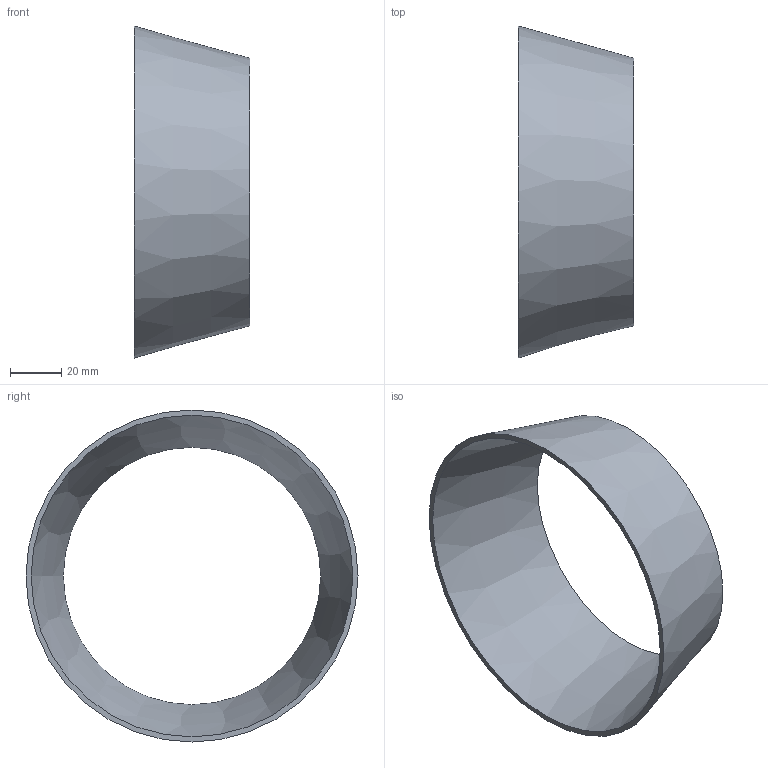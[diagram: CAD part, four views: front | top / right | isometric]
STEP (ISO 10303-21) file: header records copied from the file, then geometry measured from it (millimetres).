
FILE_DESCRIPTION(('FreeCAD Model'),'2;1');
FILE_NAME( '/home/martin/Documents/proyect/accesorios/stp/red-con_DN125-100.step' ,'2017-12-31T12:24:04',('Author'),(''), 'Open CASCADE STEP processor 6.8','FreeCAD','Unknown');
FILE_SCHEMA(('AUTOMOTIVE_DESIGN_CC2 { 1 2 10303 214 -1 1 5 4 }'));
Length unit declared in the file: millimetre
Products named in the file (1): red-con_DN125-100
Bounding box: 45 x 129 x 129 mm (x, y, z)
Volume: 32374.1 mm3; surface area: 35038.8 mm2
Topology: 1 solids, 1 shells, 4 faces, 6 edges, 4 vertices
Faces by surface type: cone 2, plane 2
Entity records: 191 total; most frequent: CARTESIAN_POINT 33, DIRECTION 26, ORIENTED_EDGE 12, PCURVE 12, DEFINITIONAL_REPRESENTATION 12, AXIS2_PLACEMENT_3D 9, CIRCLE 8, FACE_BOUND 6
